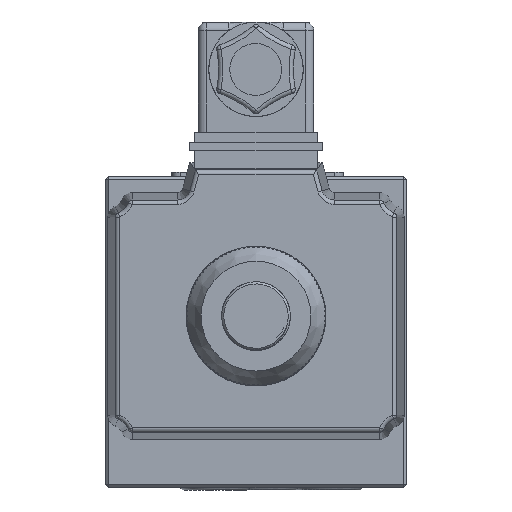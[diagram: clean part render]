
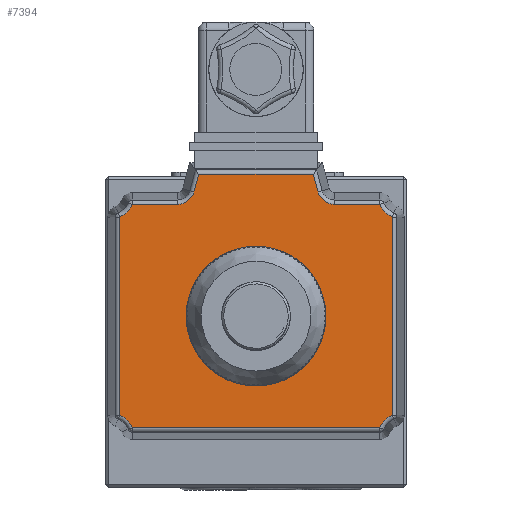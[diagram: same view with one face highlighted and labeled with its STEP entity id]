
A CAD part, left-side view. The second image highlights one B-rep face of the part: STEP entity #7394.
In plain terms, the highlighted planar face has unit normal (-1, 0, 0).
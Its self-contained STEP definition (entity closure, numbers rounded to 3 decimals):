
#698=LINE('',#30992,#2088);
#699=LINE('',#30997,#2089);
#700=LINE('',#31005,#2090);
#701=LINE('',#31013,#2091);
#702=LINE('',#31021,#2092);
#703=LINE('',#31029,#2093);
#704=LINE('',#31033,#2094);
#705=LINE('',#31035,#2095);
#2088=VECTOR('',#21584,1.);
#2089=VECTOR('',#21587,1.);
#2090=VECTOR('',#21594,1.);
#2091=VECTOR('',#21601,1.);
#2092=VECTOR('',#21608,1.);
#2093=VECTOR('',#21615,1.);
#2094=VECTOR('',#21618,1.);
#2095=VECTOR('',#21619,1.);
#6441=PLANE('',#19102);
#7394=ADVANCED_FACE('',(#8141,#8142),#6441,.T.);
#8141=FACE_BOUND('',#8687,.T.);
#8142=FACE_BOUND('',#8688,.T.);
#8687=EDGE_LOOP('',(#10953,#10954,#10955,#10956,#10957,#10958,#10959,#10960,
#10961,#10962,#10963,#10964,#10965,#10966,#10967,#10968,#10969,#10970,#10971,
#10972,#10973,#10974));
#8688=EDGE_LOOP('',(#10975));
#10953=ORIENTED_EDGE('',*,*,#16324,.T.);
#10954=ORIENTED_EDGE('',*,*,#16325,.T.);
#10955=ORIENTED_EDGE('',*,*,#16326,.T.);
#10956=ORIENTED_EDGE('',*,*,#16327,.T.);
#10957=ORIENTED_EDGE('',*,*,#16328,.T.);
#10958=ORIENTED_EDGE('',*,*,#16329,.T.);
#10959=ORIENTED_EDGE('',*,*,#16330,.T.);
#10960=ORIENTED_EDGE('',*,*,#16331,.T.);
#10961=ORIENTED_EDGE('',*,*,#16332,.T.);
#10962=ORIENTED_EDGE('',*,*,#16333,.T.);
#10963=ORIENTED_EDGE('',*,*,#16334,.T.);
#10964=ORIENTED_EDGE('',*,*,#16335,.T.);
#10965=ORIENTED_EDGE('',*,*,#16336,.T.);
#10966=ORIENTED_EDGE('',*,*,#16337,.T.);
#10967=ORIENTED_EDGE('',*,*,#16338,.T.);
#10968=ORIENTED_EDGE('',*,*,#16339,.T.);
#10969=ORIENTED_EDGE('',*,*,#16340,.T.);
#10970=ORIENTED_EDGE('',*,*,#16341,.T.);
#10971=ORIENTED_EDGE('',*,*,#16342,.T.);
#10972=ORIENTED_EDGE('',*,*,#16343,.T.);
#10973=ORIENTED_EDGE('',*,*,#16344,.T.);
#10974=ORIENTED_EDGE('',*,*,#16345,.T.);
#10975=ORIENTED_EDGE('',*,*,#16346,.F.);
#14546=VERTEX_POINT('',#30993);
#14547=VERTEX_POINT('',#30994);
#14548=VERTEX_POINT('',#30996);
#14549=VERTEX_POINT('',#30998);
#14550=VERTEX_POINT('',#31000);
#14551=VERTEX_POINT('',#31002);
#14552=VERTEX_POINT('',#31004);
#14553=VERTEX_POINT('',#31006);
#14554=VERTEX_POINT('',#31008);
#14555=VERTEX_POINT('',#31010);
#14556=VERTEX_POINT('',#31012);
#14557=VERTEX_POINT('',#31014);
#14558=VERTEX_POINT('',#31016);
#14559=VERTEX_POINT('',#31018);
#14560=VERTEX_POINT('',#31020);
#14561=VERTEX_POINT('',#31022);
#14562=VERTEX_POINT('',#31024);
#14563=VERTEX_POINT('',#31026);
#14564=VERTEX_POINT('',#31028);
#14565=VERTEX_POINT('',#31030);
#14566=VERTEX_POINT('',#31032);
#14567=VERTEX_POINT('',#31034);
#14568=VERTEX_POINT('',#31037);
#16324=EDGE_CURVE('',#14546,#14547,#698,.T.);
#16325=EDGE_CURVE('',#14547,#14548,#18169,.T.);
#16326=EDGE_CURVE('',#14548,#14549,#699,.T.);
#16327=EDGE_CURVE('',#14549,#14550,#18170,.T.);
#16328=EDGE_CURVE('',#14550,#14551,#18171,.T.);
#16329=EDGE_CURVE('',#14551,#14552,#18172,.T.);
#16330=EDGE_CURVE('',#14552,#14553,#700,.T.);
#16331=EDGE_CURVE('',#14553,#14554,#18173,.T.);
#16332=EDGE_CURVE('',#14554,#14555,#18174,.T.);
#16333=EDGE_CURVE('',#14555,#14556,#18175,.T.);
#16334=EDGE_CURVE('',#14556,#14557,#701,.T.);
#16335=EDGE_CURVE('',#14557,#14558,#18176,.T.);
#16336=EDGE_CURVE('',#14558,#14559,#18177,.T.);
#16337=EDGE_CURVE('',#14559,#14560,#18178,.T.);
#16338=EDGE_CURVE('',#14560,#14561,#702,.T.);
#16339=EDGE_CURVE('',#14561,#14562,#18179,.T.);
#16340=EDGE_CURVE('',#14562,#14563,#18180,.T.);
#16341=EDGE_CURVE('',#14563,#14564,#18181,.T.);
#16342=EDGE_CURVE('',#14564,#14565,#703,.T.);
#16343=EDGE_CURVE('',#14565,#14566,#18182,.T.);
#16344=EDGE_CURVE('',#14566,#14567,#704,.T.);
#16345=EDGE_CURVE('',#14567,#14546,#705,.T.);
#16346=EDGE_CURVE('',#14568,#14568,#18183,.T.);
#18169=CIRCLE('',#19087,3.959);
#18170=CIRCLE('',#19088,0.041);
#18171=CIRCLE('',#19089,4.959);
#18172=CIRCLE('',#19090,0.041);
#18173=CIRCLE('',#19091,0.041);
#18174=CIRCLE('',#19092,4.959);
#18175=CIRCLE('',#19093,0.041);
#18176=CIRCLE('',#19094,0.041);
#18177=CIRCLE('',#19095,4.959);
#18178=CIRCLE('',#19096,0.041);
#18179=CIRCLE('',#19097,0.041);
#18180=CIRCLE('',#19098,4.959);
#18181=CIRCLE('',#19099,0.041);
#18182=CIRCLE('',#19100,3.959);
#18183=CIRCLE('',#19101,13.);
#19087=AXIS2_PLACEMENT_3D('',#30995,#21585,#21586);
#19088=AXIS2_PLACEMENT_3D('',#30999,#21588,#21589);
#19089=AXIS2_PLACEMENT_3D('',#31001,#21590,#21591);
#19090=AXIS2_PLACEMENT_3D('',#31003,#21592,#21593);
#19091=AXIS2_PLACEMENT_3D('',#31007,#21595,#21596);
#19092=AXIS2_PLACEMENT_3D('',#31009,#21597,#21598);
#19093=AXIS2_PLACEMENT_3D('',#31011,#21599,#21600);
#19094=AXIS2_PLACEMENT_3D('',#31015,#21602,#21603);
#19095=AXIS2_PLACEMENT_3D('',#31017,#21604,#21605);
#19096=AXIS2_PLACEMENT_3D('',#31019,#21606,#21607);
#19097=AXIS2_PLACEMENT_3D('',#31023,#21609,#21610);
#19098=AXIS2_PLACEMENT_3D('',#31025,#21611,#21612);
#19099=AXIS2_PLACEMENT_3D('',#31027,#21613,#21614);
#19100=AXIS2_PLACEMENT_3D('',#31031,#21616,#21617);
#19101=AXIS2_PLACEMENT_3D('',#31036,#21620,#21621);
#19102=AXIS2_PLACEMENT_3D('',#31038,#21622,#21623);
#21584=DIRECTION('',(0.,0.259,-0.966));
#21585=DIRECTION('',(1.,0.,0.));
#21586=DIRECTION('',(0.,-1.,0.));
#21587=DIRECTION('',(0.,1.,0.));
#21588=DIRECTION('',(-1.,0.,0.));
#21589=DIRECTION('',(0.,-1.,0.));
#21590=DIRECTION('',(1.,0.,0.));
#21591=DIRECTION('',(0.,-1.,0.));
#21592=DIRECTION('',(-1.,0.,0.));
#21593=DIRECTION('',(0.,-1.,0.));
#21594=DIRECTION('',(0.,0.,-1.));
#21595=DIRECTION('',(-1.,0.,0.));
#21596=DIRECTION('',(0.,-1.,0.));
#21597=DIRECTION('',(1.,0.,0.));
#21598=DIRECTION('',(0.,-1.,0.));
#21599=DIRECTION('',(-1.,0.,0.));
#21600=DIRECTION('',(0.,-1.,0.));
#21601=DIRECTION('',(0.,-1.,0.));
#21602=DIRECTION('',(-1.,0.,0.));
#21603=DIRECTION('',(0.,-1.,0.));
#21604=DIRECTION('',(1.,0.,0.));
#21605=DIRECTION('',(0.,-1.,0.));
#21606=DIRECTION('',(-1.,0.,0.));
#21607=DIRECTION('',(0.,-1.,0.));
#21608=DIRECTION('',(0.,0.,1.));
#21609=DIRECTION('',(-1.,0.,0.));
#21610=DIRECTION('',(0.,-1.,0.));
#21611=DIRECTION('',(1.,0.,0.));
#21612=DIRECTION('',(0.,-1.,0.));
#21613=DIRECTION('',(-1.,0.,0.));
#21614=DIRECTION('',(0.,-1.,0.));
#21615=DIRECTION('',(0.,1.,0.));
#21616=DIRECTION('',(1.,0.,0.));
#21617=DIRECTION('',(0.,-1.,0.));
#21618=DIRECTION('',(0.,0.259,0.966));
#21619=DIRECTION('',(0.,1.,0.));
#21620=DIRECTION('',(-1.,0.,0.));
#21621=DIRECTION('',(0.,-1.,0.));
#21622=DIRECTION('',(-1.,0.,0.));
#21623=DIRECTION('',(0.,1.,0.));
#30992=CARTESIAN_POINT('',(-41.7,63.613,-56.407));
#30993=CARTESIAN_POINT('',(-41.7,48.354,0.541));
#30994=CARTESIAN_POINT('',(-41.7,49.443,-3.525));
#30995=CARTESIAN_POINT('',(-41.7,53.267,-2.5));
#30996=CARTESIAN_POINT('',(-41.7,53.267,-6.459));
#30997=CARTESIAN_POINT('',(-41.7,66.75,-6.459));
#30998=CARTESIAN_POINT('',(-41.7,63.816,-6.459));
#30999=CARTESIAN_POINT('',(-41.7,63.816,-6.5));
#31000=CARTESIAN_POINT('',(-41.7,63.855,-6.486));
#31001=CARTESIAN_POINT('',(-41.7,68.5,-4.75));
#31002=CARTESIAN_POINT('',(-41.7,66.764,-9.395));
#31003=CARTESIAN_POINT('',(-41.7,66.75,-9.434));
#31004=CARTESIAN_POINT('',(-41.7,66.791,-9.434));
#31005=CARTESIAN_POINT('',(-41.7,66.791,-55.566));
#31006=CARTESIAN_POINT('',(-41.7,66.791,-55.566));
#31007=CARTESIAN_POINT('',(-41.7,66.75,-55.566));
#31008=CARTESIAN_POINT('',(-41.7,66.764,-55.605));
#31009=CARTESIAN_POINT('',(-41.7,68.5,-60.25));
#31010=CARTESIAN_POINT('',(-41.7,63.855,-58.514));
#31011=CARTESIAN_POINT('',(-41.7,63.816,-58.5));
#31012=CARTESIAN_POINT('',(-41.7,63.816,-58.541));
#31013=CARTESIAN_POINT('',(-41.7,66.75,-58.541));
#31014=CARTESIAN_POINT('',(-41.7,6.184,-58.541));
#31015=CARTESIAN_POINT('',(-41.7,6.184,-58.5));
#31016=CARTESIAN_POINT('',(-41.7,6.145,-58.514));
#31017=CARTESIAN_POINT('',(-41.7,1.5,-60.25));
#31018=CARTESIAN_POINT('',(-41.7,3.236,-55.605));
#31019=CARTESIAN_POINT('',(-41.7,3.25,-55.566));
#31020=CARTESIAN_POINT('',(-41.7,3.209,-55.566));
#31021=CARTESIAN_POINT('',(-41.7,3.209,-55.566));
#31022=CARTESIAN_POINT('',(-41.7,3.209,-9.434));
#31023=CARTESIAN_POINT('',(-41.7,3.25,-9.434));
#31024=CARTESIAN_POINT('',(-41.7,3.236,-9.395));
#31025=CARTESIAN_POINT('',(-41.7,1.5,-4.75));
#31026=CARTESIAN_POINT('',(-41.7,6.145,-6.486));
#31027=CARTESIAN_POINT('',(-41.7,6.184,-6.5));
#31028=CARTESIAN_POINT('',(-41.7,6.184,-6.459));
#31029=CARTESIAN_POINT('',(-41.7,66.75,-6.459));
#31030=CARTESIAN_POINT('',(-41.7,16.733,-6.459));
#31031=CARTESIAN_POINT('',(-41.7,16.733,-2.5));
#31032=CARTESIAN_POINT('',(-41.7,20.557,-3.525));
#31033=CARTESIAN_POINT('',(-41.7,10.641,-40.532));
#31034=CARTESIAN_POINT('',(-41.7,21.646,0.541));
#31035=CARTESIAN_POINT('',(-41.7,66.75,0.541));
#31036=CARTESIAN_POINT('',(-41.7,35.,-32.5));
#31037=CARTESIAN_POINT('',(-41.7,22.,-32.5));
#31038=CARTESIAN_POINT('',(-41.7,66.75,-55.566));
